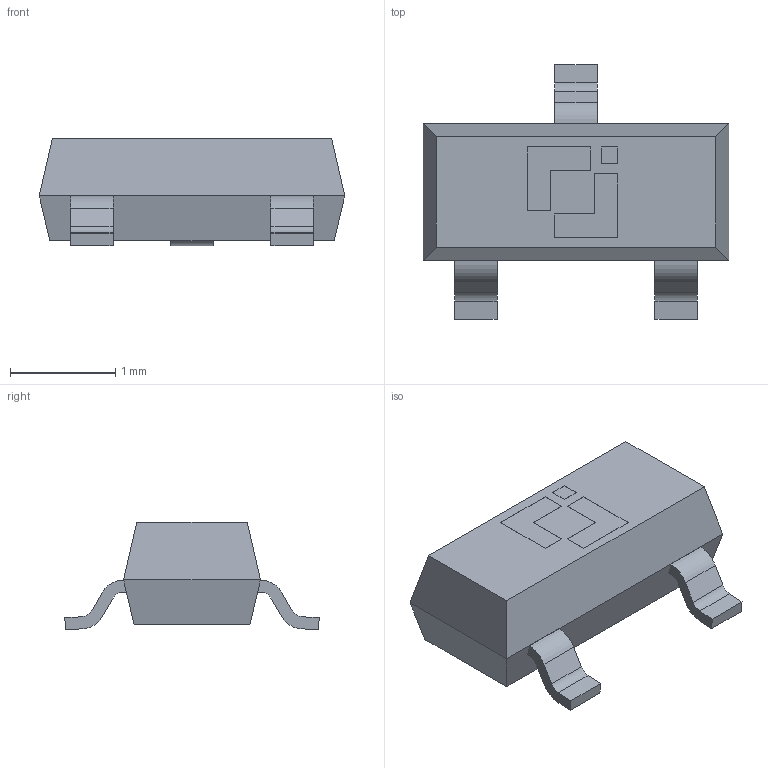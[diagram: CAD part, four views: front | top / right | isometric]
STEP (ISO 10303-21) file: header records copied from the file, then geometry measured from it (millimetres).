
FILE_DESCRIPTION(('HOOPS Exchange Step'),'2;1');
FILE_NAME('C:\Users\JSCJ\AppData\Local\Packages\Shapr3D.Shapr3D_dvv5p1vgwv6mp\TempState\export\temp_export','2025-12-04T09:47:19+08:00',('JSCJ'),('Shapr3D Limited'),'HOOPS Exchange 2025.7','Shapr3D','Authorized');
FILE_SCHEMA( ('AP242_MANAGED_MODEL_BASED_3D_ENGINEERING_MIM_LF {1 0 10303 442 1 1 4}') );
Length unit declared in the file: millimetre
Products named in the file (5): 直线图案 04; 直线图案 03; 直线图案 02; 直线图案 01; root
Assembly tree (4 placements, depth 2):
  root
    直线图案 04
    直线图案 03
    直线图案 02
    直线图案 01
Bounding box: 2.9 x 2.42 x 1.02 mm (x, y, z)
Volume: 3.3 mm3; surface area: 16.5 mm2
Topology: 4 solids, 4 shells, 71 faces, 176 edges, 116 vertices
Faces by surface type: plane 59, cylinder 12
Entity records: 2243 total; most frequent: CARTESIAN_POINT 373, DIRECTION 362, ORIENTED_EDGE 352, EDGE_CURVE 176, VECTOR 152, LINE 152, VERTEX_POINT 116, AXIS2_PLACEMENT_3D 105
